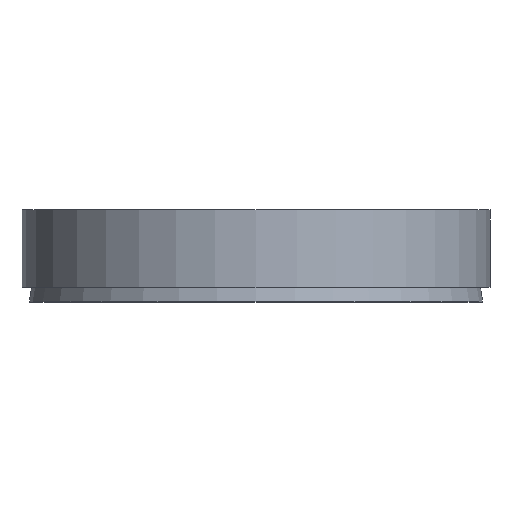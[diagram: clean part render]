
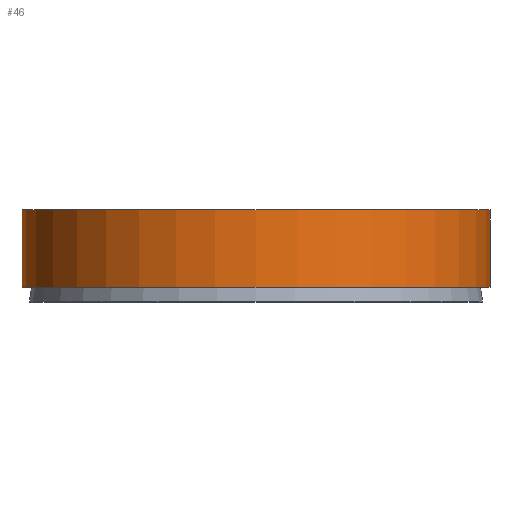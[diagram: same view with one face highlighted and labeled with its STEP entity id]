
A CAD part, top view. The second image highlights one B-rep face of the part: STEP entity #46.
In plain terms, the highlighted cylindrical face has radius 16 mm (diameter 32 mm), a full revolution.
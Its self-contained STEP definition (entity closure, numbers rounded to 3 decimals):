
#46 = ADVANCED_FACE( '', ( #93, #94 ), #95, .T. );
#93 = FACE_OUTER_BOUND( '', #132, .T. );
#94 = FACE_OUTER_BOUND( '', #133, .T. );
#95 = CYLINDRICAL_SURFACE( '', #134, 16. );
#132 = EDGE_LOOP( '', ( #179 ) );
#133 = EDGE_LOOP( '', ( #180 ) );
#134 = AXIS2_PLACEMENT_3D( '', #181, #182, #183 );
#179 = ORIENTED_EDGE( '', *, *, #189, .F. );
#180 = ORIENTED_EDGE( '', *, *, #198, .T. );
#181 = CARTESIAN_POINT( '', ( 0., -60., 0. ) );
#182 = DIRECTION( '', ( 0., 1., 0. ) );
#183 = DIRECTION( '', ( 0., 0., -1. ) );
#189 = EDGE_CURVE( '', #208, #208, #209, .T. );
#198 = EDGE_CURVE( '', #221, #221, #222, .T. );
#208 = VERTEX_POINT( '', #232 );
#209 = CIRCLE( '', #233, 16. );
#221 = VERTEX_POINT( '', #245 );
#222 = CIRCLE( '', #246, 16. );
#232 = CARTESIAN_POINT( '', ( 0., 1., -16. ) );
#233 = AXIS2_PLACEMENT_3D( '', #257, #258, #259 );
#245 = CARTESIAN_POINT( '', ( 0., 6.3, -16. ) );
#246 = AXIS2_PLACEMENT_3D( '', #269, #270, #271 );
#257 = CARTESIAN_POINT( '', ( 0., 1., 0. ) );
#258 = DIRECTION( '', ( 0., -1., 0. ) );
#259 = DIRECTION( '', ( 0., 0., -1. ) );
#269 = CARTESIAN_POINT( '', ( 0., 6.3, 0. ) );
#270 = DIRECTION( '', ( 0., -1., 0. ) );
#271 = DIRECTION( '', ( 0., 0., -1. ) );
